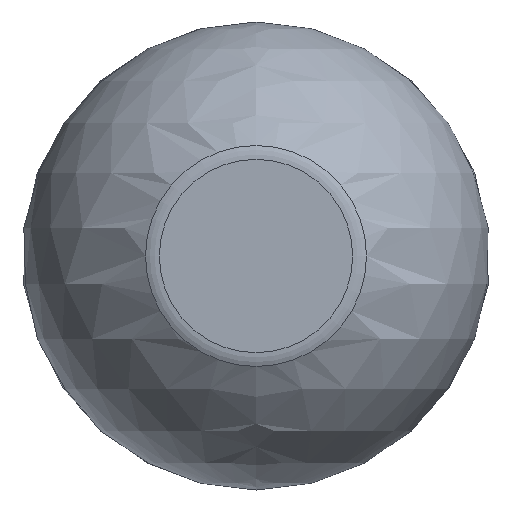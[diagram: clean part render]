
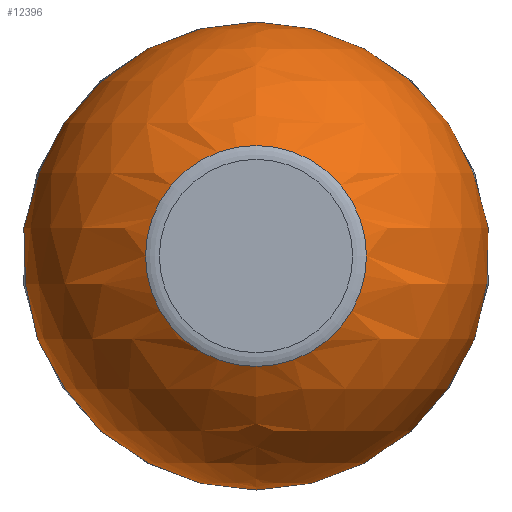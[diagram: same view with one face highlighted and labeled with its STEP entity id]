
A CAD part, left-side view. The second image highlights one B-rep face of the part: STEP entity #12396.
In plain terms, the highlighted spherical face has radius 6.09 mm.
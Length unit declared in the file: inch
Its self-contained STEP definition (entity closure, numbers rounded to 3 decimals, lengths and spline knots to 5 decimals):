
#3288=FACE_BOUND('',#4078,.T.);
#3361=SPHERICAL_SURFACE('',#13176,0.23975);
#3364=FACE_OUTER_BOUND('',#4077,.T.);
#4077=EDGE_LOOP('',(#8560,#8561,#8562,#8563,#8564,#8565));
#4078=EDGE_LOOP('',(#8566));
#4862=CIRCLE('',#13172,0.11325);
#4863=CIRCLE('',#13173,0.11325);
#4866=CIRCLE('',#13177,0.23975);
#4867=CIRCLE('',#13178,0.23975);
#4868=CIRCLE('',#13179,0.13232);
#5357=VERTEX_POINT('',#17388);
#5358=VERTEX_POINT('',#17389);
#5360=VERTEX_POINT('',#17396);
#5361=VERTEX_POINT('',#17398);
#5362=VERTEX_POINT('',#17400);
#6638=EDGE_CURVE('',#5357,#5358,#4862,.T.);
#6639=EDGE_CURVE('',#5358,#5357,#4863,.T.);
#6642=EDGE_CURVE('',#5360,#5357,#4866,.T.);
#6643=EDGE_CURVE('',#5358,#5361,#4867,.T.);
#6644=EDGE_CURVE('',#5362,#5362,#4868,.T.);
#8560=ORIENTED_EDGE('',*,*,#6638,.F.);
#8561=ORIENTED_EDGE('',*,*,#6642,.F.);
#8562=ORIENTED_EDGE('',*,*,#6642,.T.);
#8563=ORIENTED_EDGE('',*,*,#6639,.F.);
#8564=ORIENTED_EDGE('',*,*,#6643,.T.);
#8565=ORIENTED_EDGE('',*,*,#6643,.F.);
#8566=ORIENTED_EDGE('',*,*,#6644,.F.);
#12396=ADVANCED_FACE('',(#3364,#3288),#3361,.T.);
#13172=AXIS2_PLACEMENT_3D('',#17390,#14219,#14220);
#13173=AXIS2_PLACEMENT_3D('',#17391,#14221,#14222);
#13176=AXIS2_PLACEMENT_3D('',#17395,#14227,#14228);
#13177=AXIS2_PLACEMENT_3D('',#17397,#14229,#14230);
#13178=AXIS2_PLACEMENT_3D('',#17399,#14231,#14232);
#13179=AXIS2_PLACEMENT_3D('',#17401,#14233,#14234);
#14219=DIRECTION('center_axis',(-1.,0.,0.));
#14220=DIRECTION('ref_axis',(0.,-1.,0.));
#14221=DIRECTION('center_axis',(-1.,0.,0.));
#14222=DIRECTION('ref_axis',(0.,-1.,0.));
#14227=DIRECTION('center_axis',(0.,0.,1.));
#14228=DIRECTION('ref_axis',(1.,0.,0.));
#14229=DIRECTION('center_axis',(0.,-1.,0.));
#14230=DIRECTION('ref_axis',(-1.,0.,0.));
#14231=DIRECTION('center_axis',(0.,-1.,0.));
#14232=DIRECTION('ref_axis',(-1.,0.,0.));
#14233=DIRECTION('center_axis',(1.,0.,0.));
#14234=DIRECTION('ref_axis',(0.,0.,-1.));
#17388=CARTESIAN_POINT('',(-0.21132,0.,0.11325));
#17389=CARTESIAN_POINT('',(-0.21132,0.,-0.11325));
#17390=CARTESIAN_POINT('Origin',(-0.21132,0.,0.));
#17391=CARTESIAN_POINT('Origin',(-0.21132,0.,0.));
#17395=CARTESIAN_POINT('Origin',(0.,0.,0.));
#17396=CARTESIAN_POINT('',(0.,0.,0.23975));
#17397=CARTESIAN_POINT('Origin',(0.,0.,0.));
#17398=CARTESIAN_POINT('',(0.,0.,-0.23975));
#17399=CARTESIAN_POINT('Origin',(0.,0.,0.));
#17400=CARTESIAN_POINT('',(0.19993,0.13232,0.));
#17401=CARTESIAN_POINT('Origin',(0.19993,0.,0.));
